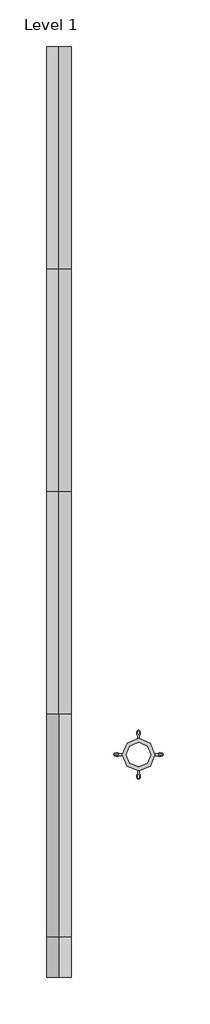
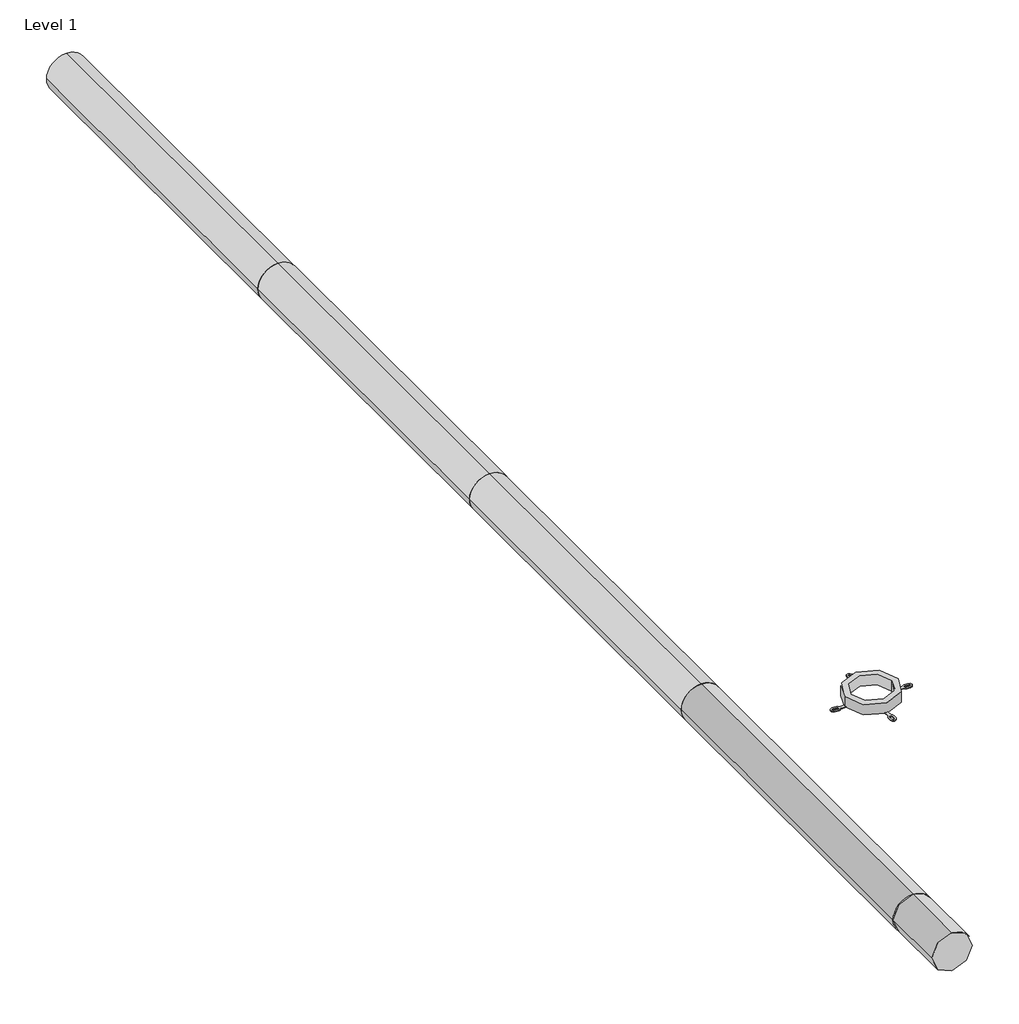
# One storey, incomplete: 5 pipe segments, 1 pipe fitting.
"""IFC4 building model written with IfcOpenShell, lengths in millimetres."""

import ifcopenshell
import ifcopenshell.guid

model = None  # the IFC model being written
_history = None  # IfcOwnerHistory: only IFC2X3 demands one
_inside = {}  # id of a spatial element -> (the spatial element, [elements in it])
_under = {}  # id of a project, library or spatial element -> (it, [spatial elements below it])
_declared = {}  # id of a project -> (the project, [libraries it declares])
_typed = {}  # id of a type object -> (the type object, [elements of that type])
_made_of = {}  # id of a material, layer set ... -> (it, [elements and type objects made of it])


def new_model(schema):
    """Start an empty IFC model of exactly this schema.

    Asked for "IFC4X3", IfcOpenShell would pick the latest addendum, in which some entities
    have other attributes; the version numbers below select the first issue.
    IFC2X3 requires an IfcOwnerHistory on every rooted entity: one is made here for all.
    """
    global model, _history
    if schema == "IFC4X3":
        model = ifcopenshell.file(schema_version=(4, 3, 0, 0))
    else:
        model = ifcopenshell.file(schema=schema)
    _inside.clear()
    _under.clear()
    _declared.clear()
    _typed.clear()
    _made_of.clear()
    _history = None
    if model.schema == "IFC2X3":
        org = make("IfcOrganization", Name="unknown")
        user = make(
            "IfcPersonAndOrganization",
            ThePerson=make("IfcPerson", FamilyName="unknown"),
            TheOrganization=org,
        )
        app = make(
            "IfcApplication",
            ApplicationDeveloper=org,
            Version="unknown",
            ApplicationFullName="unknown",
            ApplicationIdentifier="unknown",
        )
        _history = make(
            "IfcOwnerHistory",
            OwningUser=user,
            OwningApplication=app,
            ChangeAction="ADDED",
            CreationDate=0,
        )
    return model


def make(cls, **values):
    """One entity of the class cls with the attributes given. An attribute that is None is left unset."""
    return model.create_entity(
        cls, **{name: value for name, value in values.items() if value is not None}
    )


def rooted(cls, **values):
    """An entity with a GlobalId (a new one), such as an element, a storey or a relation."""
    return make(cls, GlobalId=ifcopenshell.guid.new(), OwnerHistory=_history, **values)


def si_unit(unit_type, name, prefix=None):
    """IfcSIUnit, for example si_unit("LENGTHUNIT", "METRE", prefix="MILLI")."""
    return make("IfcSIUnit", UnitType=unit_type, Prefix=prefix, Name=name)


def assignment(units):
    """IfcUnitAssignment: the units of a project."""
    return None if units is None else make("IfcUnitAssignment", Units=units)


def point(xyz):
    """IfcCartesianPoint."""
    return None if xyz is None else make("IfcCartesianPoint", Coordinates=xyz)


def direction(xyz):
    """IfcDirection."""
    return None if xyz is None else make("IfcDirection", DirectionRatios=xyz)


def frame(location, z_axis=None, x_axis=None):
    """IfcAxis2Placement3D, a coordinate frame: its origin and axes. An axis left out is left unset."""
    return make(
        "IfcAxis2Placement3D",
        Location=point(location),
        Axis=direction(z_axis),
        RefDirection=direction(x_axis),
    )


def frame_2d(location, x_axis=None):
    """IfcAxis2Placement2D, a coordinate frame in the plane: its origin and x axis."""
    return make(
        "IfcAxis2Placement2D", Location=point(location), RefDirection=direction(x_axis)
    )


def origin():
    """The frame at (0, 0, 0) with its axes left unset."""
    return frame((0.0, 0.0, 0.0))


def origin_2d():
    """The frame at (0, 0) in the plane with its x axis left unset."""
    return frame_2d((0.0, 0.0))


def place(relative_to, where):
    """IfcLocalPlacement: puts the frame where relative to a parent placement (None: the world)."""
    return make(
        "IfcLocalPlacement", PlacementRelTo=relative_to, RelativePlacement=where
    )


def context(
    kind, dimensions, precision=None, world=None, true_north=None, identifier=None
):
    """IfcGeometricRepresentationContext, for example the 3D "Model" context."""
    return make(
        "IfcGeometricRepresentationContext",
        ContextIdentifier=identifier,
        ContextType=kind,
        CoordinateSpaceDimension=dimensions,
        Precision=precision,
        WorldCoordinateSystem=world,
        TrueNorth=true_north,
    )


def project(units=None, contexts=None):
    """IfcProject with its units and contexts."""
    return rooted(
        "IfcProject",
        Name="project",
        RepresentationContexts=contexts,
        UnitsInContext=assignment(units),
    )


def spatial(cls, under=None, at=None, **own):
    """A site, building, storey or space (cls), placed at a placement, below another one or the project."""
    s = rooted(cls, ObjectPlacement=at, **own)
    if under is not None:
        _under.setdefault(under.id(), (under, []))[1].append(s)
    return s


def polyline(points):
    """IfcPolyline through the points."""
    return make("IfcPolyline", Points=[point(p) for p in points])


def circle_curve(where, radius):
    """IfcCircle in the frame where."""
    return make("IfcCircle", Position=where, Radius=radius)


def trimmed(basis, trim1, trim2, sense, master):
    """IfcTrimmedCurve: the piece of a basis curve between two trims."""
    return make(
        "IfcTrimmedCurve",
        BasisCurve=basis,
        Trim1=trim1,
        Trim2=trim2,
        SenseAgreement=sense,
        MasterRepresentation=master,
    )


def segment(curve, same_sense, transition):
    """IfcCompositeCurveSegment."""
    return make(
        "IfcCompositeCurveSegment",
        Transition=transition,
        SameSense=same_sense,
        ParentCurve=curve,
    )


def composite_curve(segments, self_intersect=None):
    """IfcCompositeCurve: segments joined end to end."""
    return make("IfcCompositeCurve", Segments=segments, SelfIntersect=self_intersect)


def outline(outer, holes=None, kind="AREA"):
    """IfcArbitraryClosedProfileDef: a profile drawn as a closed curve; with holes, ...WithVoids."""
    if holes is None:
        return make("IfcArbitraryClosedProfileDef", ProfileType=kind, OuterCurve=outer)
    return make(
        "IfcArbitraryProfileDefWithVoids",
        ProfileType=kind,
        OuterCurve=outer,
        InnerCurves=holes,
    )


def extrude(swept, where, along, depth):
    """IfcExtrudedAreaSolid: the profile swept, set in the frame where, extruded along a direction by depth."""
    return make(
        "IfcExtrudedAreaSolid",
        SweptArea=swept,
        Position=where,
        ExtrudedDirection=direction(along),
        Depth=depth,
    )


def shape(context_of_items, identifier, shape_type, items):
    """IfcShapeRepresentation: the items that make up one representation, for example the "Body"."""
    return make(
        "IfcShapeRepresentation",
        ContextOfItems=context_of_items,
        RepresentationIdentifier=identifier,
        RepresentationType=shape_type,
        Items=items,
    )


def source(mapping_origin, context_of_items, identifier, shape_type, items):
    """IfcRepresentationMap: a shape defined once, which mapped items show again and again."""
    return make(
        "IfcRepresentationMap",
        MappingOrigin=mapping_origin,
        MappedRepresentation=shape(context_of_items, identifier, shape_type, items),
    )


def transform(
    local_origin,
    x_axis=None,
    y_axis=None,
    z_axis=None,
    scale=None,
    scale2=None,
    scale3=None,
    uniform=True,
):
    """IfcCartesianTransformationOperator3D, or its non-uniform kind. x_axis, y_axis, z_axis: its Axis1, 2, 3."""
    if uniform:
        return make(
            "IfcCartesianTransformationOperator3D",
            Axis1=direction(x_axis),
            Axis2=direction(y_axis),
            LocalOrigin=point(local_origin),
            Scale=scale,
            Axis3=direction(z_axis),
        )
    return make(
        "IfcCartesianTransformationOperator3DnonUniform",
        Axis1=direction(x_axis),
        Axis2=direction(y_axis),
        LocalOrigin=point(local_origin),
        Scale=scale,
        Axis3=direction(z_axis),
        Scale2=scale2,
        Scale3=scale3,
    )


def mapped(mapping_source, mapping_target):
    """IfcMappedItem: shows the shape of a source again, moved by a transform."""
    return make(
        "IfcMappedItem", MappingSource=mapping_source, MappingTarget=mapping_target
    )


def made_of(thing, what):
    """Note that an element or type object is made of a material, layer set ...; save() writes the relation."""
    if what is not None:
        _made_of.setdefault(what.id(), (what, []))[1].append(thing)
    return thing


def element(
    cls,
    number,
    at=None,
    inside=None,
    cuts=None,
    type_object=None,
    material=None,
    context=None,
    identifier="Body",
    shape_type=None,
    held_by="IfcProductDefinitionShape",
    body=None,
    shapes=None,
    **own,
):
    """One element of the class cls, such as IfcWall. Its Tag is "e" and its number.

    at: its placement. inside: the storey or other place that contains it. cuts: it is an
    opening in that element (IfcRelVoidsElement). A single representation is given by context,
    identifier, shape_type and body (its items); several are given by shapes. held_by: the class
    of the entity that holds the representations. save() writes the other relations.
    """
    e = rooted(cls, Tag="e%d" % number, ObjectPlacement=at, **own)
    if body is not None:
        shapes = [shape(context, identifier, shape_type, body)]
    if shapes is not None:
        e.Representation = make(held_by, Representations=shapes)
    if inside is not None:
        _inside.setdefault(inside.id(), (inside, []))[1].append(e)
    if cuts is not None:
        rooted(
            "IfcRelVoidsElement", RelatingBuildingElement=cuts, RelatedOpeningElement=e
        )
    if type_object is not None:
        _typed.setdefault(type_object.id(), (type_object, []))[1].append(e)
    return made_of(e, material)


def aggregate(whole, parts):
    """IfcRelAggregates: a whole, such as a stair, and the parts it consists of."""
    return rooted("IfcRelAggregates", RelatingObject=whole, RelatedObjects=parts)


def save(model, path):
    """Write the relations noted so far, then the file.

    IfcRelAggregates (storeys below a building ...), IfcRelContainedInSpatialStructure (elements
    in a storey), IfcRelDefinesByType, IfcRelAssociatesMaterial and IfcRelDeclares: one each for
    every whole, place, type object, material and project.
    """
    for whole, parts in _under.values():
        aggregate(whole, parts)
    for where, things in _inside.values():
        rooted(
            "IfcRelContainedInSpatialStructure",
            RelatedElements=things,
            RelatingStructure=where,
        )
    for kind, things in _typed.values():
        rooted("IfcRelDefinesByType", RelatedObjects=things, RelatingType=kind)
    for what, things in _made_of.values():
        rooted("IfcRelAssociatesMaterial", RelatedObjects=things, RelatingMaterial=what)
    for by, libraries in _declared.values():
        rooted("IfcRelDeclares", RelatingContext=by, RelatedDefinitions=libraries)
    model.write(path)


def master_3_plus_sealing_ring_master_3_plus_sealing_ring_ccb48bfc(model_context):
    return source(origin(), model_context, "Body", "SweptSolid", [
        extrude(outline(composite_curve([segment(polyline([(-3.9877984, 71.0), (-3.9877984, 86.0647665)]), True, "CONTINUOUS"), segment(trimmed(circle_curve(frame_2d((0.0, 93.0)), 8.0), [point((-3.9877984, 86.0647665))], [point((-8.0, 93.0))], False, "CARTESIAN"), True, "CONTINUOUS"), segment(polyline([(-8.0, 93.0), (-8.0, 103.0)]), True, "CONTINUOUS"), segment(trimmed(circle_curve(frame_2d((0.0, 103.0)), 8.0), [point((-8.0, 103.0))], [point((8.0, 103.0))], False, "CARTESIAN"), True, "CONTINUOUS"), segment(polyline([(8.0, 103.0), (8.0, 93.0)]), True, "CONTINUOUS"), segment(trimmed(circle_curve(frame_2d((0.0, 93.0)), 8.0), [point((8.0, 93.0))], [point((3.9877984, 86.0647665))], False, "CARTESIAN"), True, "CONTINUOUS"), segment(polyline([(3.9877984, 86.0647665), (3.9877984, 71.0), (-3.9877984, 71.0)]), True, "CONTINUOUS")], self_intersect=False), holes=[composite_curve([segment(trimmed(circle_curve(frame_2d((0.0, 93.0)), 3.0), [point((-3.0, 93.0))], [point((3.0, 93.0))], True, "CARTESIAN"), True, "CONTINUOUS"), segment(polyline([(3.0, 93.0), (3.0, 103.0)]), True, "CONTINUOUS"), segment(trimmed(circle_curve(frame_2d((0.0, 103.0)), 3.0), [point((3.0, 103.0))], [point((-3.0, 103.0))], True, "CARTESIAN"), True, "CONTINUOUS"), segment(polyline([(-3.0, 103.0), (-3.0, 93.0)]), True, "CONTINUOUS")], self_intersect=False)]), frame((0.0, 0.0, 0.0), z_axis=(1.0, 0.0, 0.0), x_axis=(0.0, 1.0, 0.0)), (0.0, 0.0, 1.0), 2.0),
        extrude(outline(composite_curve([segment(polyline([(-3.9877984, -71.0), (3.9877984, -71.0), (3.9877984, -86.0647665)]), True, "CONTINUOUS"), segment(trimmed(circle_curve(frame_2d((0.0, -93.0)), 8.0), [point((3.9877984, -86.0647665))], [point((8.0, -93.0))], False, "CARTESIAN"), True, "CONTINUOUS"), segment(polyline([(8.0, -93.0), (8.0, -103.0)]), True, "CONTINUOUS"), segment(trimmed(circle_curve(frame_2d((0.0, -103.0)), 8.0), [point((8.0, -103.0))], [point((-8.0, -103.0))], False, "CARTESIAN"), True, "CONTINUOUS"), segment(polyline([(-8.0, -103.0), (-8.0, -93.0)]), True, "CONTINUOUS"), segment(trimmed(circle_curve(frame_2d((0.0, -93.0)), 8.0), [point((-8.0, -93.0))], [point((-3.9877984, -86.0647665))], False, "CARTESIAN"), True, "CONTINUOUS"), segment(polyline([(-3.9877984, -86.0647665), (-3.9877984, -71.0)]), True, "CONTINUOUS")], self_intersect=False), holes=[composite_curve([segment(polyline([(-3.0, -93.0), (-3.0, -103.0)]), True, "CONTINUOUS"), segment(trimmed(circle_curve(frame_2d((0.0, -103.0)), 3.0), [point((-3.0, -103.0))], [point((3.0, -103.0))], True, "CARTESIAN"), True, "CONTINUOUS"), segment(polyline([(3.0, -103.0), (3.0, -93.0)]), True, "CONTINUOUS"), segment(trimmed(circle_curve(frame_2d((0.0, -93.0)), 3.0), [point((3.0, -93.0))], [point((-3.0, -93.0))], True, "CARTESIAN"), True, "CONTINUOUS")], self_intersect=False)]), frame((0.0, 0.0, 0.0), z_axis=(1.0, 0.0, 0.0), x_axis=(0.0, 1.0, 0.0)), (0.0, 0.0, 1.0), 2.0),
        extrude(outline(composite_curve([segment(polyline([(-71.0, -3.9877984), (-86.0647665, -3.9877984)]), True, "CONTINUOUS"), segment(trimmed(circle_curve(frame_2d((-93.0, 0.0)), 8.0), [point((-86.0647665, -3.9877984))], [point((-93.0, -8.0))], False, "CARTESIAN"), True, "CONTINUOUS"), segment(polyline([(-93.0, -8.0), (-103.0, -8.0)]), True, "CONTINUOUS"), segment(trimmed(circle_curve(frame_2d((-103.0, 0.0)), 8.0), [point((-103.0, -8.0))], [point((-103.0, 8.0))], False, "CARTESIAN"), True, "CONTINUOUS"), segment(polyline([(-103.0, 8.0), (-93.0, 8.0)]), True, "CONTINUOUS"), segment(trimmed(circle_curve(frame_2d((-93.0, 0.0)), 8.0), [point((-93.0, 8.0))], [point((-86.0647665, 3.9877984))], False, "CARTESIAN"), True, "CONTINUOUS"), segment(polyline([(-86.0647665, 3.9877984), (-71.0, 3.9877984), (-71.0, -3.9877984)]), True, "CONTINUOUS")], self_intersect=False), holes=[composite_curve([segment(trimmed(circle_curve(frame_2d((-93.0, 0.0)), 3.0), [point((-93.0, -3.0))], [point((-93.0, 3.0))], True, "CARTESIAN"), True, "CONTINUOUS"), segment(polyline([(-93.0, 3.0), (-103.0, 3.0)]), True, "CONTINUOUS"), segment(trimmed(circle_curve(frame_2d((-103.0, 0.0)), 3.0), [point((-103.0, 3.0))], [point((-103.0, -3.0))], True, "CARTESIAN"), True, "CONTINUOUS"), segment(polyline([(-103.0, -3.0), (-93.0, -3.0)]), True, "CONTINUOUS")], self_intersect=False)]), frame((-2.0, 0.0, 0.0), z_axis=(1.0, 0.0, 0.0), x_axis=(0.0, 1.0, 0.0)), (0.0, 0.0, 1.0), 2.0),
        extrude(outline(composite_curve([segment(polyline([(71.0, -3.9877984), (71.0, 3.9877984), (86.0647665, 3.9877984)]), True, "CONTINUOUS"), segment(trimmed(circle_curve(frame_2d((93.0, 0.0)), 8.0), [point((86.0647665, 3.9877984))], [point((93.0, 8.0))], False, "CARTESIAN"), True, "CONTINUOUS"), segment(polyline([(93.0, 8.0), (103.0, 8.0)]), True, "CONTINUOUS"), segment(trimmed(circle_curve(frame_2d((103.0, 0.0)), 8.0), [point((103.0, 8.0))], [point((103.0, -8.0))], False, "CARTESIAN"), True, "CONTINUOUS"), segment(polyline([(103.0, -8.0), (93.0, -8.0)]), True, "CONTINUOUS"), segment(trimmed(circle_curve(frame_2d((93.0, 0.0)), 8.0), [point((93.0, -8.0))], [point((86.0647665, -3.9877984))], False, "CARTESIAN"), True, "CONTINUOUS"), segment(polyline([(86.0647665, -3.9877984), (71.0, -3.9877984)]), True, "CONTINUOUS")], self_intersect=False), holes=[composite_curve([segment(polyline([(93.0, -3.0), (103.0, -3.0)]), True, "CONTINUOUS"), segment(trimmed(circle_curve(frame_2d((103.0, 0.0)), 3.0), [point((103.0, -3.0))], [point((103.0, 3.0))], True, "CARTESIAN"), True, "CONTINUOUS"), segment(polyline([(103.0, 3.0), (93.0, 3.0)]), True, "CONTINUOUS"), segment(trimmed(circle_curve(frame_2d((93.0, 0.0)), 3.0), [point((93.0, 3.0))], [point((93.0, -3.0))], True, "CARTESIAN"), True, "CONTINUOUS")], self_intersect=False)]), frame((0.0, 0.0, 0.0), z_axis=(1.0, 0.0, 0.0), x_axis=(0.0, 1.0, 0.0)), (0.0, 0.0, 1.0), 2.0),
        extrude(outline(composite_curve([segment(trimmed(circle_curve(origin_2d(), 73.0), [point((-73.0, 0.0))], [point((73.0, 0.0))], False, "CARTESIAN"), True, "CONTINUOUS"), segment(trimmed(circle_curve(origin_2d(), 73.0), [point((73.0, 0.0))], [point((-73.0, 0.0))], False, "CARTESIAN"), True, "CONTINUOUS")], self_intersect=False), holes=[composite_curve([segment(trimmed(circle_curve(origin_2d(), 55.0), [point((-55.0, 0.0))], [point((55.0, 0.0))], True, "CARTESIAN"), True, "CONTINUOUS"), segment(trimmed(circle_curve(origin_2d(), 55.0), [point((55.0, 0.0))], [point((-55.0, 0.0))], True, "CARTESIAN"), True, "CONTINUOUS")], self_intersect=False)]), frame((0.0, 0.0, 0.0), z_axis=(1.0, 0.0, 0.0), x_axis=(0.0, 1.0, 0.0)), (0.0, 0.0, 1.0), 30.0),
    ])


model = new_model("IFC4")

# Units and contexts
model_context = context("Model", 3, world=origin())
ifc_project = project(units=[si_unit("LENGTHUNIT", "METRE", prefix="MILLI")], contexts=[model_context])

# Site, building, storey
site = spatial("IfcSite", under=ifc_project)
building = spatial("IfcBuilding", under=site)
storey = spatial("IfcBuildingStorey", under=building, Name="Level 1", Elevation=0.0)

# Pipe fitting
placement = place(None, origin())
master_3_plus_sealing_ring_master_3_plus_sealing_ring_shape = master_3_plus_sealing_ring_master_3_plus_sealing_ring_ccb48bfc(model_context)
element("IfcPipeFitting", 1, ObjectType="MASTER 3 PLUS Sealing ring : MASTER 3 PLUS Sealing ring", at=placement, inside=storey, context=model_context, shape_type="MappedRepresentation", body=[
    mapped(master_3_plus_sealing_ring_master_3_plus_sealing_ring_shape, transform((334.1899506, -1415.079396, 0.0), x_axis=(0.0, 0.0, 1.0), y_axis=(-1.0000000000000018, 0.0, 0.0), z_axis=(0.0, -1.0000000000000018, 0.0))),
])

# Pipe segments
element("IfcPipeSegment", 2, ObjectType="MASTER 3 PLUS pipe", at=placement, inside=storey, context=model_context, shape_type="SweptSolid", body=[
    extrude(outline(composite_curve([segment(trimmed(circle_curve(frame_2d((0.0, -23.9727807)), 55.0), [point((0.0, 31.0272193))], [point((55.0, -23.9727807))], False, "CARTESIAN"), True, "CONTINUOUS"), segment(trimmed(circle_curve(frame_2d((0.0, -23.9727807)), 55.0), [point((55.0, -23.9727807))], [point((0.0, -78.9727807))], False, "CARTESIAN"), True, "CONTINUOUS"), segment(trimmed(circle_curve(frame_2d((0.0, -23.9727807)), 55.0), [point((0.0, -78.9727807))], [point((-55.0, -23.9727807))], False, "CARTESIAN"), True, "CONTINUOUS"), segment(trimmed(circle_curve(frame_2d((0.0, -23.9727807)), 55.0), [point((-55.0, -23.9727807))], [point((0.0, 31.0272193))], False, "CARTESIAN"), True, "CONTINUOUS")], self_intersect=False)), frame((0.0, -232.6170091, 0.0), z_axis=(0.0, 1.0, 0.0), x_axis=(0.0, 0.0, 1.0)), (0.0, 0.0, 1.0), 999.0),
])
element("IfcPipeSegment", 3, ObjectType="MASTER 3 PLUS pipe", at=placement, inside=storey, context=model_context, shape_type="SweptSolid", body=[
    extrude(outline(composite_curve([segment(trimmed(circle_curve(frame_2d((0.0, -23.9727807)), 55.0), [point((0.0, 31.0272193))], [point((55.0, -23.9727807))], False, "CARTESIAN"), True, "CONTINUOUS"), segment(trimmed(circle_curve(frame_2d((0.0, -23.9727807)), 55.0), [point((55.0, -23.9727807))], [point((0.0, -78.9727807))], False, "CARTESIAN"), True, "CONTINUOUS"), segment(trimmed(circle_curve(frame_2d((0.0, -23.9727807)), 55.0), [point((0.0, -78.9727807))], [point((-55.0, -23.9727807))], False, "CARTESIAN"), True, "CONTINUOUS"), segment(trimmed(circle_curve(frame_2d((0.0, -23.9727807)), 55.0), [point((-55.0, -23.9727807))], [point((0.0, 31.0272193))], False, "CARTESIAN"), True, "CONTINUOUS")], self_intersect=False)), frame((0.0, -1232.6170091, 0.0), z_axis=(0.0, 1.0, 0.0), x_axis=(0.0, 0.0, 1.0)), (0.0, 0.0, 1.0), 999.0),
])
element("IfcPipeSegment", 4, ObjectType="MASTER 3 PLUS pipe", at=placement, inside=storey, context=model_context, shape_type="SweptSolid", body=[
    extrude(outline(composite_curve([segment(trimmed(circle_curve(frame_2d((0.0, -23.9727807)), 55.0), [point((0.0, -78.9727807))], [point((-55.0, -23.9727807))], False, "CARTESIAN"), True, "CONTINUOUS"), segment(trimmed(circle_curve(frame_2d((0.0, -23.9727807)), 55.0), [point((-55.0, -23.9727807))], [point((0.0, 31.0272193))], False, "CARTESIAN"), True, "CONTINUOUS"), segment(trimmed(circle_curve(frame_2d((0.0, -23.9727807)), 55.0), [point((0.0, 31.0272193))], [point((55.0, -23.9727807))], False, "CARTESIAN"), True, "CONTINUOUS"), segment(trimmed(circle_curve(frame_2d((0.0, -23.9727807)), 55.0), [point((55.0, -23.9727807))], [point((0.0, -78.9727807))], False, "CARTESIAN"), True, "CONTINUOUS")], self_intersect=False)), frame((0.0, -2232.6170091, 0.0), z_axis=(0.0, 1.0, 0.0), x_axis=(0.0, 0.0, 1.0)), (0.0, 0.0, 1.0), 999.0),
])
element("IfcPipeSegment", 5, ObjectType="MASTER 3 PLUS pipe", at=placement, inside=storey, context=model_context, shape_type="SweptSolid", body=[
    extrude(outline(composite_curve([segment(trimmed(circle_curve(frame_2d((0.0, -23.9727807)), 55.0), [point((0.0, -78.9727807))], [point((-55.0, -23.9727807))], False, "CARTESIAN"), True, "CONTINUOUS"), segment(trimmed(circle_curve(frame_2d((0.0, -23.9727807)), 55.0), [point((-55.0, -23.9727807))], [point((0.0, 31.0272193))], False, "CARTESIAN"), True, "CONTINUOUS"), segment(trimmed(circle_curve(frame_2d((0.0, -23.9727807)), 55.0), [point((0.0, 31.0272193))], [point((55.0, -23.9727807))], False, "CARTESIAN"), True, "CONTINUOUS"), segment(trimmed(circle_curve(frame_2d((0.0, -23.9727807)), 55.0), [point((55.0, -23.9727807))], [point((0.0, -78.9727807))], False, "CARTESIAN"), True, "CONTINUOUS")], self_intersect=False)), frame((0.0, -2415.6619439, 0.0), z_axis=(0.0, 1.0, 0.0), x_axis=(0.0, 0.0, 1.0)), (0.0, 0.0, 1.0), 182.0449348),
])
element("IfcPipeSegment", 6, ObjectType="MASTER 3 PLUS pipe", at=placement, inside=storey, context=model_context, shape_type="SweptSolid", body=[
    extrude(outline(composite_curve([segment(trimmed(circle_curve(frame_2d((0.0, -23.9727807)), 55.0), [point((0.0, 31.0272193))], [point((55.0, -23.9727807))], False, "CARTESIAN"), True, "CONTINUOUS"), segment(trimmed(circle_curve(frame_2d((0.0, -23.9727807)), 55.0), [point((55.0, -23.9727807))], [point((0.0, -78.9727807))], False, "CARTESIAN"), True, "CONTINUOUS"), segment(trimmed(circle_curve(frame_2d((0.0, -23.9727807)), 55.0), [point((0.0, -78.9727807))], [point((-55.0, -23.9727807))], False, "CARTESIAN"), True, "CONTINUOUS"), segment(trimmed(circle_curve(frame_2d((0.0, -23.9727807)), 55.0), [point((-55.0, -23.9727807))], [point((0.0, 31.0272193))], False, "CARTESIAN"), True, "CONTINUOUS")], self_intersect=False)), frame((0.0, 767.3829909, 0.0), z_axis=(0.0, 1.0, 0.0), x_axis=(0.0, 0.0, 1.0)), (0.0, 0.0, 1.0), 998.5),
])

save(model, "model.ifc")
